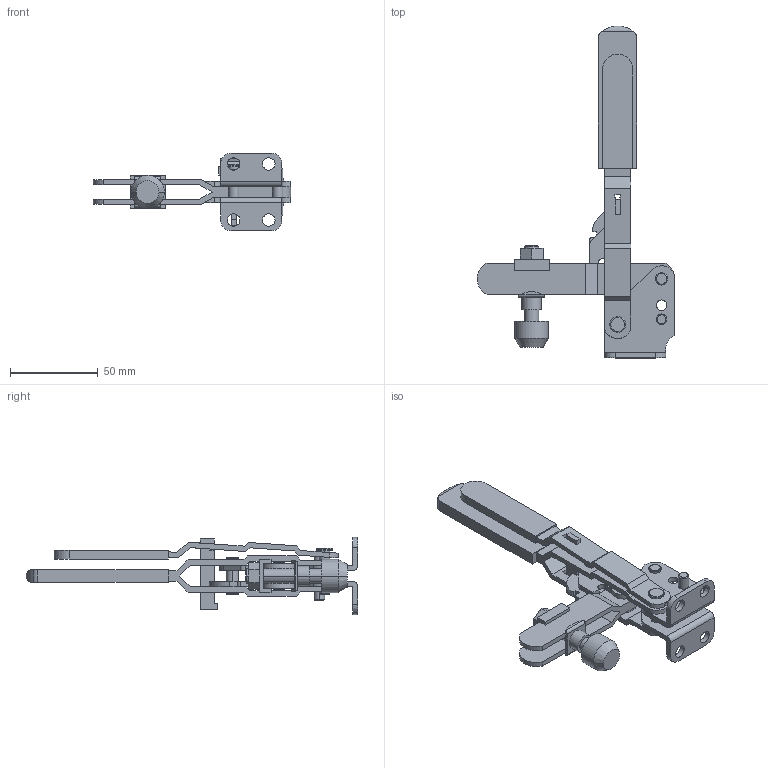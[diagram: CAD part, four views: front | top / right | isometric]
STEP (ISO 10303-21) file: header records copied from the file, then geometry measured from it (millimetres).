
FILE_DESCRIPTION( ( '' ), '1' );
FILE_NAME( '//partserver002.servicenet/client_exchange/iodir/jobs/output/wkb5782835_no1/STEP/v250_2blc_2_03.stp', '2006-11-29T10:49:11', ( '' ), ( '' ), ' ', ' ', ' ' );
FILE_SCHEMA( ( 'CONFIG_CONTROL_DESIGN' ) );
Length unit declared in the file: millimetre
Products named in the file (9): 1; 2; 3; 4; 5; 6; 7; 8; 9
Bounding box: 112.46 x 189 x 44 mm (x, y, z)
Volume: 70666.2 mm3; surface area: 46601.9 mm2
Topology: 9 solids, 9 shells, 355 faces, 910 edges, 591 vertices
Faces by surface type: plane 210, cylinder 101, cone 28, torus 16
Entity records: 11224 total; most frequent: CARTESIAN_POINT 1985, DIRECTION 1870, ORIENTED_EDGE 1820, EDGE_CURVE 910, AXIS2_PLACEMENT_3D 628, LINE 614, VECTOR 614, VERTEX_POINT 591
